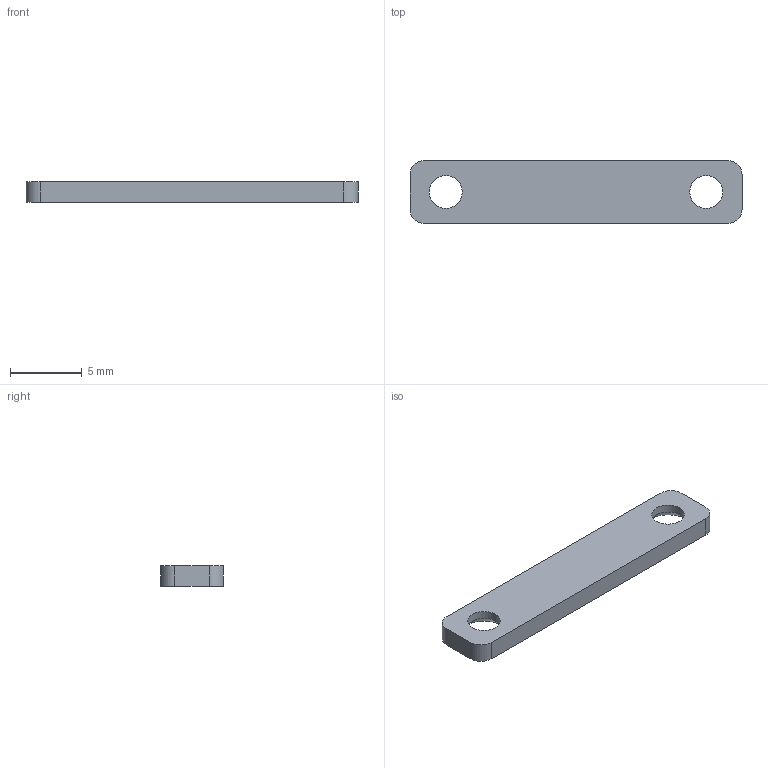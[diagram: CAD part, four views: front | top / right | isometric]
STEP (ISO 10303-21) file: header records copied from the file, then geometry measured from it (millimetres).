
FILE_DESCRIPTION(/* description */ (''),/* implementation_level */ '2;1');
FILE_NAME(/* name */ 'P11.step',/* time_stamp */ '2026-09-14T14:30:45-07:00',/* author */ (''),/* organization */ (''),/* preprocessor_version */ 'ST-DEVELOPER v20.1',/* originating_system */ 'Autodesk Translation Framework v15.8.0.0',/* authorisation */ '');
FILE_SCHEMA (('AUTOMOTIVE_DESIGN { 1 0 10303 214 3 1 1 }'));
Length unit declared in the file: millimetre
Products named in the file (1): 2026-09-14-14-30-45-170
Bounding box: 23.2 x 4.4 x 1.4 mm (x, y, z)
Volume: 124.2 mm3; surface area: 275.8 mm2
Topology: 1 solids, 1 shells, 14 faces, 34 edges, 22 vertices
Faces by surface type: plane 6, cylinder 6, cone 2
Full cylindrical faces by diameter (mm): 2.3 x2
Entity records: 457 total; most frequent: DIRECTION 78, CARTESIAN_POINT 71, ORIENTED_EDGE 68, EDGE_CURVE 34, AXIS2_PLACEMENT_3D 29, VERTEX_POINT 22, LINE 20, VECTOR 20
